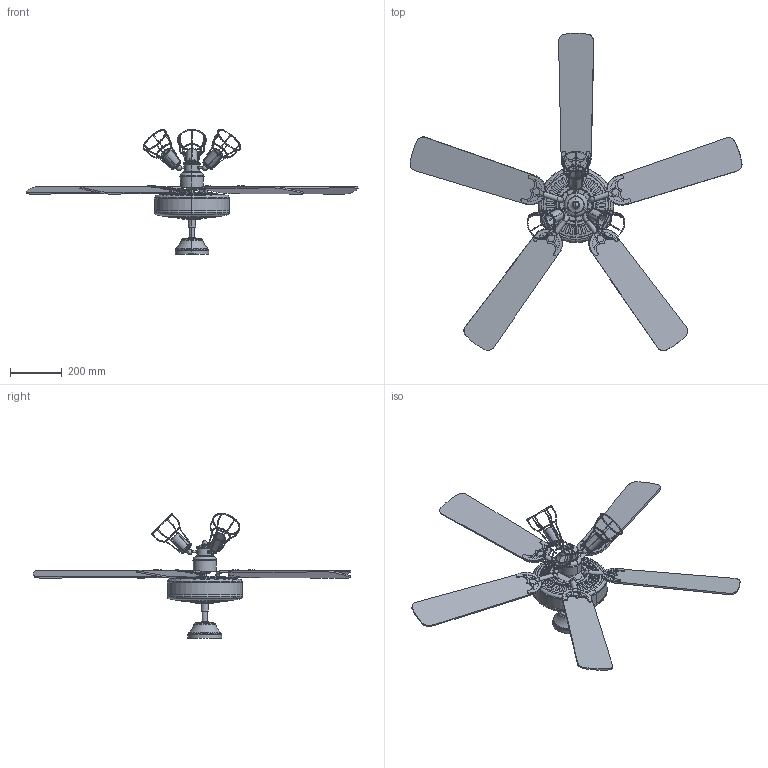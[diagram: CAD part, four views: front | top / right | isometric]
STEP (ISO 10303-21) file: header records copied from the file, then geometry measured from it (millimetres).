
FILE_DESCRIPTION(/* description */ (''),/* implementation_level */ '2;1');
FILE_NAME(/* name */ 'C:\Users\FrancoSartori\Documents\FARO\01_En Proceso\00_ALOHA YAKARTA\03_Publicación\33710-13.stp',/* time_stamp */ '2021-06-08T14:00:30+02:00',/* author */ ('FrancoSartori'),/* organization */ (''),/* preprocessor_version */ 'ST-DEVELOPER v18.1',/* originating_system */ 'AutoCAD Mechanical',/* authorisation */ '');
FILE_SCHEMA (('AUTOMOTIVE_DESIGN { 1 0 10303 214 3 1 1 }'));
Products named in the file (3): Product; 33710_ - FAN-468549-Export; 3371X_LK - LT-472763-Export
Assembly tree (2 placements, depth 2):
  Product
    33710_ - FAN-468549-Export
    3371X_LK - LT-472763-Export
Bounding box: 1280.65 x 1224.5 x 482.03 mm (x, y, z)
Volume: 7899473.2 mm3; surface area: 1399084.7 mm2
Topology: 38 solids, 38 shells, 1154 faces, 2910 edges, 1798 vertices
Faces by surface type: cylinder 560, plane 359, torus 195, cone 26, sphere 10, bspline 4
Entity records: 53210 total; most frequent: CARTESIAN_POINT 27701, ORIENTED_EDGE 5786, DIRECTION 4524, EDGE_CURVE 2893, VERTEX_POINT 1798, AXIS2_PLACEMENT_3D 1772, EDGE_LOOP 1347, FACE_OUTER_BOUND 1154
